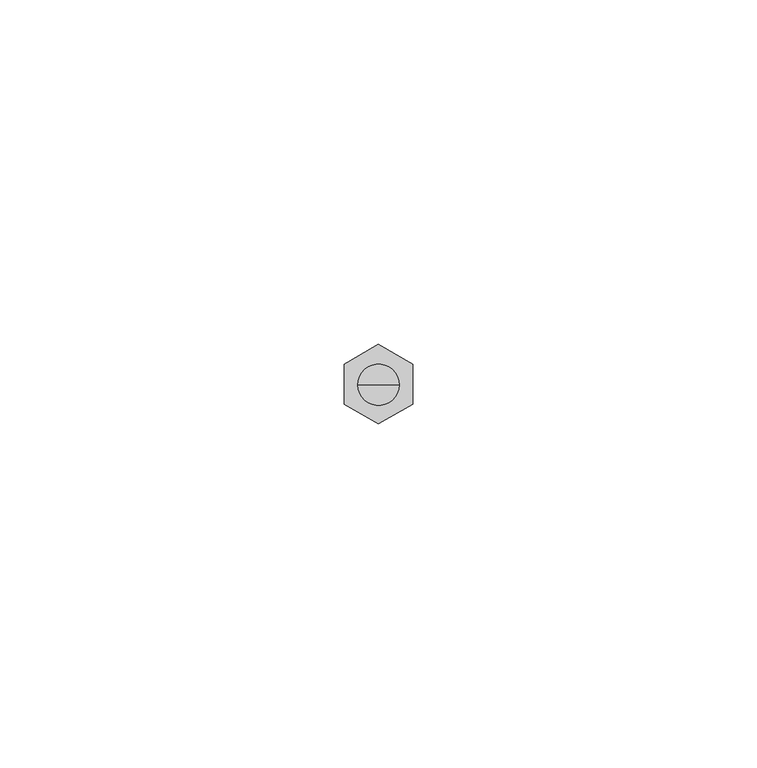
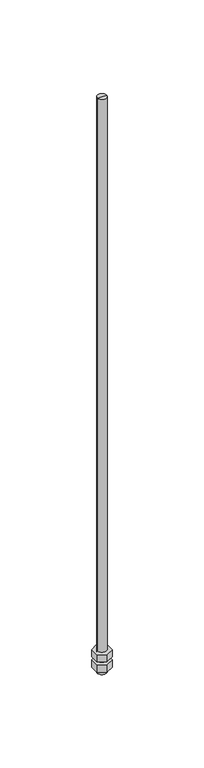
"""IFC4 building model written with IfcOpenShell, lengths in millimetres: proxy geometry, durlum_threaded_rod_M6 : durlum_threaded_rod_M6."""

from ifc_helpers import new_model, si_unit, frame, origin, origin_with_axes, place, context, project, spatial, polyline, circle_curve, outline, extrude, source, transform, mapped, element, save
from ifc_brep_helpers import plane_surface, cylinder_surface, advanced_brep


def generic_models_7cee0ba5(model_context):
    return source(origin(), model_context, "Body", "SolidModel", [
        extrude(outline(polyline([(5.0, 3.0421914), (5.0, -2.7313113), (0.0, -5.6180626), (-5.0, -2.7313113), (-5.0, 3.0421914), (0.0, 5.9289428), (5.0, 3.0421914)])), frame((0.0, 0.0, -7.0), z_axis=(0.0, 0.0, 1.0), x_axis=(1.0, 0.0, 0.0)), (0.0, 0.0, 1.0), 5.0),
        extrude(outline(polyline([(5.0, 3.0421914), (5.0, -2.7313113), (0.0, -5.6180626), (-5.0, -2.7313113), (-5.0, 3.0421914), (0.0, 5.9289428), (5.0, 3.0421914)])), origin_with_axes(), (0.0, 0.0, 1.0), 5.0),
        advanced_brep(
        [(-3.0, 0.0, 384.5175042), (3.0, 0.0, 384.5175042), (3.0, 0.0, -10.0), (-3.0, 0.0, -10.0), (0.0, 0.0, 384.5175042), (0.0, 0.0, -10.0)],
        [
            (0, 1, circle_curve(frame((0.0, 0.0, 384.5175042), z_axis=(0.0, 0.0, -1.0), x_axis=(1.0, 0.0, 0.0)), 3.0)),
            (1, 2),
            (2, 3, circle_curve(frame((0.0, 0.0, -10.0), z_axis=(0.0, 0.0, 1.0), x_axis=(1.0, 0.0, 0.0)), 3.0)),
            (3, 0),
            (1, 0, circle_curve(frame((0.0, 0.0, 384.5175042), z_axis=(0.0, 0.0, -1.0), x_axis=(1.0, 0.0, 0.0)), 3.0)),
            (3, 2, circle_curve(frame((0.0, 0.0, -10.0), z_axis=(0.0, 0.0, 1.0), x_axis=(1.0, 0.0, 0.0)), 3.0)),
            (4, 1),
            (0, 4),
            (2, 5),
            (5, 3),
        ],
        [
            cylinder_surface(frame((0.0, 0.0, -675.0), z_axis=(0.0, 0.0, 1.0), x_axis=(1.0, 0.0, 0.0)), 3.0),
            plane_surface(frame((0.0, 0.0, 384.5175042), z_axis=(0.0, 0.0, 1.0), x_axis=(1.0, 0.0, 0.0))),
            plane_surface(frame((0.0, 0.0, -10.0), z_axis=(0.0, 0.0, -1.0), x_axis=(1.0, 0.0, 0.0))),
        ],
        [
            (0, [[1, 2, 3, 4]]),
            (0, [[5, -4, 6, -2]]),
            (1, [[7, -1, 8]]),
            (1, [[-8, -5, -7]]),
            (2, [[-3, 9, 10]]),
            (2, [[-6, -10, -9]]),
        ],
    ),
    ])


if __name__ == "__main__":
    model = new_model("IFC4")
    model_context = context("Model", 3, world=origin())
    ifc_project = project(units=[si_unit("LENGTHUNIT", "METRE", prefix="MILLI")], contexts=[model_context])
    site = spatial("IfcSite", under=ifc_project)
    building = spatial("IfcBuilding", under=site)
    placement = place(None, origin())
    generic_models_shape = generic_models_7cee0ba5(model_context)
    element("IfcBuildingElementProxy", 1, Name="durlum_threaded_rod_M6 : durlum_threaded_rod_M6", ObjectType="durlum_threaded_rod_M6 : durlum_threaded_rod_M6", at=placement, inside=building, context=model_context, shape_type="MappedRepresentation", body=[
        mapped(generic_models_shape, transform((0.0, 0.0, 0.0), x_axis=(1.0, 0.0, 0.0), y_axis=(0.0, 1.0, 0.0), z_axis=(0.0, 0.0, 1.0))),
    ])
    save(model, "model.ifc")
